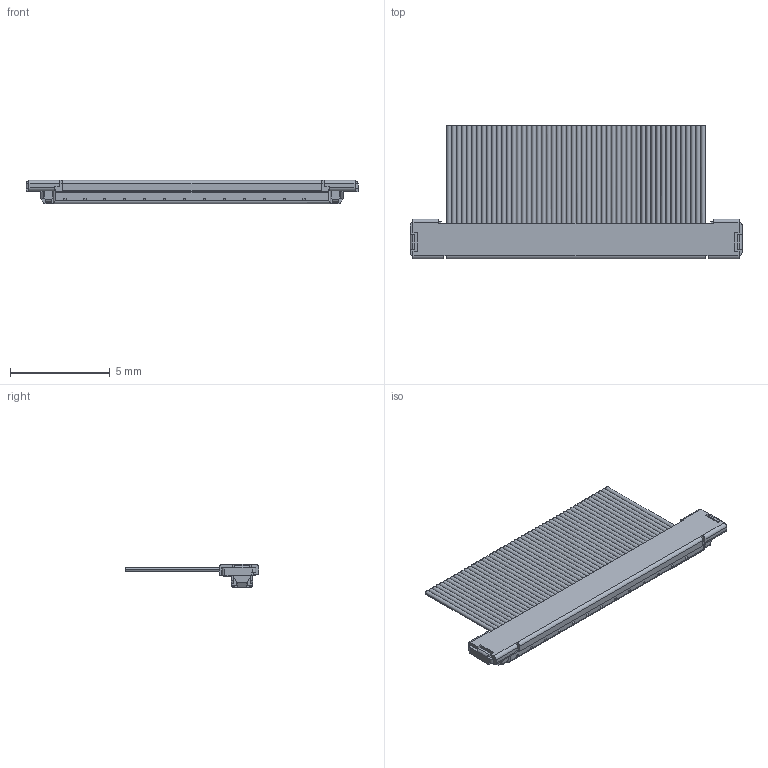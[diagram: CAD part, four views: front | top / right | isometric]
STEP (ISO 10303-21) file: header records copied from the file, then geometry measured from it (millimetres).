
FILE_DESCRIPTION(('Creo Elements/Direct Modeling STEP Export'),'2;1');
FILE_NAME('P3C397_XSLS20-52.stp','2022-02-04T15:57:24',(''),(''),'Creo Elements/Direct Modeling STEP processor for AP214 (Solid Model)','Creo Elements/Direct Modeling 20.2 28-Feb-2019 (C) Parametric Technology GmbH','');
FILE_SCHEMA(('AUTOMOTIVE_DESIGN { 1 0 10303 214 1 1 1 1 }'));
Length unit declared in the file: millimetre
Products named in the file (2): P3C397_XSLS20-52
Assembly tree (1 placements, depth 2):
  P3C397_XSLS20-52
    P3C397_XSLS20-52
Bounding box: 16.65 x 6.71 x 1.17 mm (x, y, z)
Volume: 31.7 mm3; surface area: 298.6 mm2
Topology: 1 solids, 1 shells, 413 faces, 986 edges, 659 vertices
Faces by surface type: plane 250, cylinder 161, torus 2
Entity records: 11465 total; most frequent: CARTESIAN_POINT 1991, ORIENTED_EDGE 1972, DIRECTION 1885, EDGE_CURVE 986, VERTEX_POINT 659, AXIS2_PLACEMENT_3D 629, VECTOR 627, LINE 627
